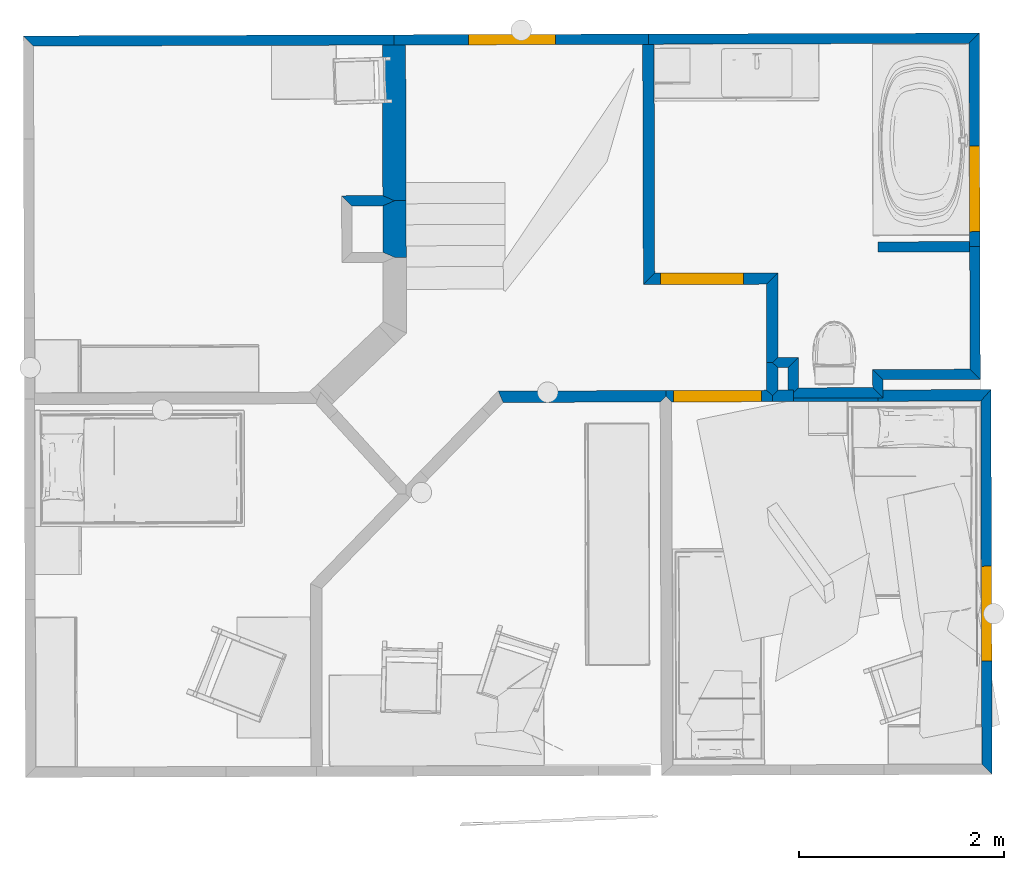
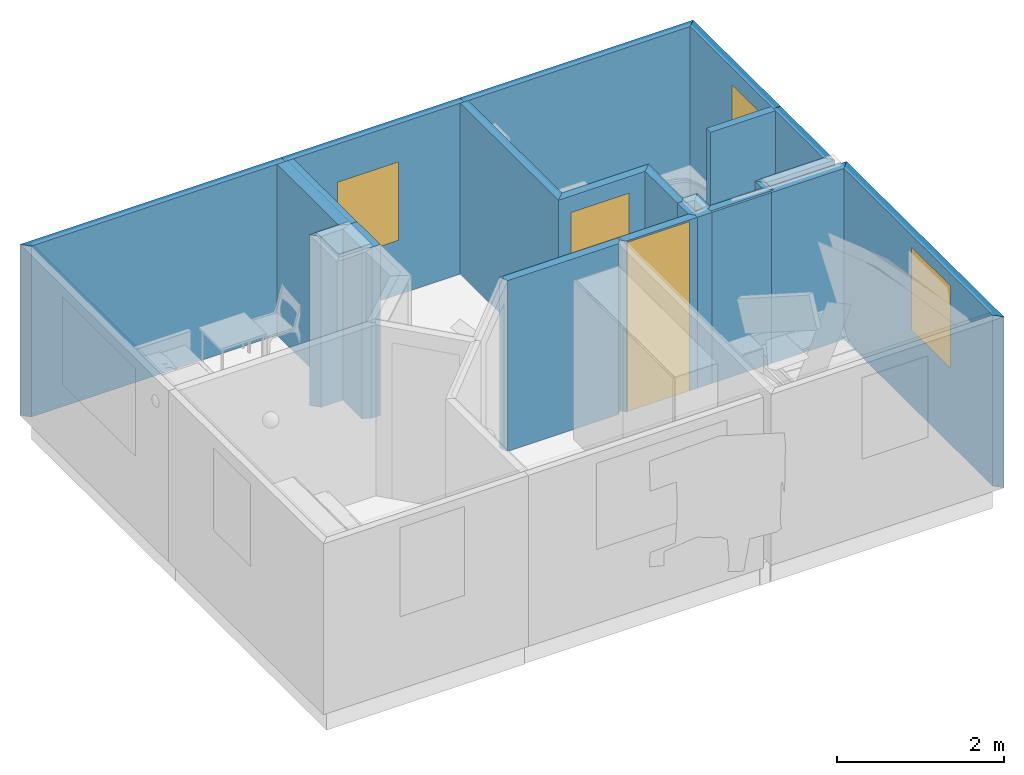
# One storey, part 2 of 15: 24 walls, 3 windows, 2 doors, 5 openings.
"""IFC4 building model written with IfcOpenShell, lengths in metres."""

from ifc_helpers import new_model, si_unit, direction, frame, origin_with_axes, place, context, subcontext, project, spatial, polyline, outline, extrude, type_object, element, fill, save


model = new_model("IFC4")

# Units and contexts
model_context = context("Model", 3, precision=1e-05, world=origin_with_axes(), true_north=direction((-0.077, 0.997, 0.0)))
body_context = subcontext(model_context, "Body", "Model", "MODEL_VIEW")
ifc_project = project(units=[si_unit("AREAUNIT", "SQUARE_METRE"), si_unit("LENGTHUNIT", "METRE")], contexts=[model_context])

# Site, building, storey
site_placement = place(None, origin_with_axes())
site = spatial("IfcSite", under=ifc_project, at=site_placement, Name="Site", CompositionType="ELEMENT")
building_placement = place(site_placement, origin_with_axes())
building = spatial("IfcBuilding", under=site, at=building_placement, Name="Building", CompositionType="ELEMENT")
storey_placement = place(building_placement, frame((0.0, 0.0, 5.71135139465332), z_axis=(0.0, 0.0, 1.0), x_axis=(1.0, 0.0, 0.0)))
storey = spatial("IfcBuildingStorey", under=building, at=storey_placement, Name="Story 2", CompositionType="ELEMENT", Elevation=5.71135139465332)

# Walls
wall_type_1 = type_object("IfcWallType", Name="Metaroom Wall", PredefinedType="STANDARD")
wall_1_placement = place(storey_placement, frame((5.08520696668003, -0.494745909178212, 0.0), z_axis=(0.0, 0.0, 1.0), x_axis=(1.0, 0.0, 0.0)))
element("IfcWallStandardCase", 1, at=wall_1_placement, inside=storey, type_object=wall_type_1, Name="Wall", context=body_context, shape_type="SweptSolid", body=[
    extrude(outline(polyline([(0.0, 0.0), (0.11123156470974, 0.111898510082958), (0.113702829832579, -0.714610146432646), (0.0580697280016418, -0.76477664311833), (0.00228722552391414, -0.764943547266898), (0.0, 0.0)])), origin_with_axes(), (0.0, 0.0, 1.0), 2.50098705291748),
])
wall_type_2 = type_object("IfcWallType", Name="Metaroom Wall", PredefinedType="STANDARD")
wall_2_placement = place(storey_placement, frame((7.06889251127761, -0.178746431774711, 0.0), z_axis=(0.0, 0.0, 1.0), x_axis=(1.0, 0.0, 0.0)))
element("IfcWallStandardCase", 2, at=wall_2_placement, inside=storey, type_object=wall_type_2, Name="Wall", context=body_context, shape_type="SweptSolid", body=[
    extrude(outline(polyline([(0.0, 0.0), (-0.00014924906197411, 0.0499997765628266), (0.0998502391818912, 0.0502989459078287), (0.103722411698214, -1.24490464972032), (0.00342390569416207, -1.14520414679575), (0.0, 0.0)])), origin_with_axes(), (0.0, 0.0, 1.0), 2.50098705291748),
])
wall_type_3 = type_object("IfcWallType", Name="Metaroom Wall", PredefinedType="STANDARD")
wall_3_placement = place(storey_placement, frame((6.22269984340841, -1.42649087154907, 0.0), z_axis=(0.0, 0.0, 1.0), x_axis=(1.0, 0.0, 0.0)))
element("IfcWallStandardCase", 3, at=wall_3_placement, inside=storey, type_object=wall_type_3, Name="Wall", context=body_context, shape_type="SweptSolid", body=[
    extrude(outline(polyline([(0.0, 0.0), (-0.100298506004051, 0.0997005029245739), (0.849616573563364, 0.102540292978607), (0.949915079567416, 0.00283979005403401), (0.0, 0.0)])), origin_with_axes(), (0.0, 0.0, 1.0), 2.50098705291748),
])
wall_type_4 = type_object("IfcWallType", Name="Metaroom Wall", PredefinedType="STANDARD")
wall_4_placement = place(storey_placement, frame((3.98893719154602, 1.84676414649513, 0.0), z_axis=(0.0, 0.0, 1.0), x_axis=(1.0, 0.0, 0.0)))
element("IfcWallStandardCase", 4, at=wall_4_placement, inside=storey, type_object=wall_type_4, Name="Wall", context=body_context, shape_type="SweptSolid", body=[
    extrude(outline(polyline([(0.0, 0.0), (-0.0557825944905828, -0.000166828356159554), (-0.056081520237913, 0.0998327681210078), (3.1735722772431, 0.109489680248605), (3.07387165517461, 0.00919065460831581), (0.0, 0.0)])), origin_with_axes(), (0.0, 0.0, 1.0), 2.50098705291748),
])
wall_type_5 = type_object("IfcWallType", Name="Metaroom Wall", PredefinedType="STANDARD")
wall_5_placement = place(storey_placement, frame((5.29833090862, -1.60608810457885, 0.0), z_axis=(0.0, 0.0, 1.0), x_axis=(1.0, 0.0, 0.0)))
element("IfcWallStandardCase", 5, at=wall_5_placement, inside=storey, type_object=wall_type_5, Name="Wall", context=body_context, shape_type="SweptSolid", body=[
    extrude(outline(polyline([(0.0, 0.0), (0.0997003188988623, 0.100298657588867), (0.824599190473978, 0.102466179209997), (0.92489806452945, 0.00276537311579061), (0.0, 0.0)])), origin_with_axes(), (0.0, 0.0, 1.0), 2.50098705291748),
])
wall_type_6 = type_object("IfcWallType", Name="Metaroom Wall", PredefinedType="STANDARD")
wall_6_placement = place(storey_placement, frame((3.87737209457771, 1.84643041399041, 0.0), z_axis=(0.0, 0.0, 1.0), x_axis=(1.0, 0.0, 0.0)))
element("IfcWallStandardCase", 6, at=wall_6_placement, inside=storey, type_object=wall_type_6, Name="Wall", context=body_context, shape_type="SweptSolid", body=[
    extrude(outline(polyline([(0.0, 0.0), (0.0557825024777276, 0.000166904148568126), (0.11156509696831, 0.00033373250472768), (0.118241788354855, -2.23286769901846), (0.00701040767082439, -2.34476636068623), (0.0, 0.0)])), origin_with_axes(), (0.0, 0.0, 1.0), 2.50098705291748),
])

# Wall, opening, window
wall_type_7 = type_object("IfcWallType", Name="Metaroom Wall", PredefinedType="STANDARD")
wall_7_placement = place(storey_placement, frame((7.06280884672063, 1.85595480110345, 0.0), z_axis=(0.0, 0.0, 1.0), x_axis=(1.0, 0.0, 0.0)))
wall_7 = element("IfcWallStandardCase", 7, at=wall_7_placement, inside=storey, type_object=wall_type_7, Name="Wall", context=body_context, shape_type="SweptSolid", body=[
    extrude(outline(polyline([(0.0, 0.0), (0.0997006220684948, 0.100299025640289), (0.105933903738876, -1.98440228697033), (0.00593441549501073, -1.98470145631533), (0.00578479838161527, -1.93470137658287), (0.0, 0.0)])), origin_with_axes(), (0.0, 0.0, 1.0), 2.50098705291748),
])
opening_1_placement = place(wall_7_placement, frame((0.00299823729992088, -1.00273230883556, 1.07699733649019), z_axis=(0.0, 0.0, 1.0), x_axis=(0.00298997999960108, -0.999995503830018, 0.0)))
opening_1 = element("IfcOpeningElement", 8, at=opening_1_placement, cuts=wall_7, Name="Metaroom Opening", ObjectType="OPENING", context=body_context, shape_type="SweptSolid", body=[
    extrude(outline(polyline([(1.73472347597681e-17, 0.0), (0.835933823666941, 0.0), (0.835933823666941, 1.17513758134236), (1.73472347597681e-17, 1.17513758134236), (1.73472347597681e-17, 0.0)])), frame((0.0, 0.0, 0.0), z_axis=(0.0, -1.0, 0.0), x_axis=(1.0, 0.0, 0.0)), (0.0, 0.0, -1.0), 0.100100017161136),
])
window_type_1 = type_object("IfcWindowType", Name="Metaroom Window area", PredefinedType="WINDOW")
window_1_placement = place(opening_1_placement, origin_with_axes())
window_1 = element("IfcWindow", 9, at=window_1_placement, inside=storey, type_object=window_type_1, Name="Metaroom Window area", OverallHeight=1.5, OverallWidth=0.5, context=body_context, shape_type="SweptSolid", body=[
    extrude(outline(polyline([(3.46944695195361e-18, 0.0), (-0.835933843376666, 0.0), (-0.835933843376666, 1.17513751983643), (3.46944695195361e-18, 1.17513751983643), (3.46944695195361e-18, 0.0)])), frame((0.0, 0.100000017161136, 0.0), z_axis=(0.0, 1.0, 0.0), x_axis=(-1.0, 0.0, 0.0)), (0.0, 0.0, -1.0), 0.100000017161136),
])
fill(opening_1, window_1)

# Wall, opening, door
wall_type_8 = type_object("IfcWallType", Name="Metaroom Wall", PredefinedType="STANDARD")
wall_8_placement = place(storey_placement, frame((3.88438250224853, -0.498335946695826, 0.0), z_axis=(0.0, 0.0, 1.0), x_axis=(1.0, 0.0, 0.0)))
wall_8 = element("IfcWallStandardCase", 10, at=wall_8_placement, inside=storey, type_object=wall_type_8, Name="Wall", context=body_context, shape_type="SweptSolid", body=[
    extrude(outline(polyline([(0.0, 0.0), (0.11123138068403, 0.111898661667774), (1.31205602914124, 0.115488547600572), (1.2008244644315, 0.00359003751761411), (0.0, 0.0)])), origin_with_axes(), (0.0, 0.0, 1.0), 2.50098705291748),
])
opening_2_placement = place(wall_8_placement, frame((0.978029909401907, 0.114490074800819, 0.0), z_axis=(0.0, 0.0, 1.0), x_axis=(-0.999995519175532, -0.00298968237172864, 0.0)))
opening_2 = element("IfcOpeningElement", 11, at=opening_2_placement, cuts=wall_8, Name="Metaroom Opening", ObjectType="OPENING", context=body_context, shape_type="SweptSolid", body=[
    extrude(outline(polyline([(-8.88178419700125e-16, 0.0), (0.809477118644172, 0.0), (0.809477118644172, 2.25869041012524), (-8.88178419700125e-16, 2.25869041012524), (-8.88178419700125e-16, 0.0)])), frame((0.0, 0.0, 0.0), z_axis=(0.0, -1.0, 0.0), x_axis=(1.0, 0.0, 0.0)), (0.0, 0.0, -1.0), 0.111665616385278),
])
door_type_1 = type_object("IfcDoorType", Name="Metaroom Door area", PredefinedType="DOOR")
door_1_placement = place(opening_2_placement, origin_with_axes())
door_1 = element("IfcDoor", 12, at=door_1_placement, inside=storey, type_object=door_type_1, Name="Metaroom Door area", OverallHeight=2.25869035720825, OverallWidth=0.809477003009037, context=body_context, shape_type="SweptSolid", body=[
    extrude(outline(polyline([(8.88178419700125e-16, 0.0), (-0.80947718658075, 0.0), (-0.80947718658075, 2.25869035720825), (8.88178419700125e-16, 2.25869035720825), (8.88178419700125e-16, 0.0)])), frame((0.0, 0.111565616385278, 0.0), z_axis=(0.0, 1.0, 0.0), x_axis=(-1.0, 0.0, 0.0)), (0.0, 0.0, -1.0), 0.111565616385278),
])
fill(opening_2, door_1)

# Walls
wall_type_9 = type_object("IfcWallType", Name="Metaroom Wall", PredefinedType="STANDARD")
wall_9_placement = place(storey_placement, frame((5.19920844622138, -1.3093554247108, 0.0), z_axis=(0.0, 0.0, 1.0), x_axis=(1.0, 0.0, 0.0)))
element("IfcWallStandardCase", 13, at=wall_9_placement, inside=storey, type_object=wall_type_9, Name="Wall", context=body_context, shape_type="SweptSolid", body=[
    extrude(outline(polyline([(0.0, 0.0), (-0.0559317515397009, 0.0498328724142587), (-0.000298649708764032, 0.0999993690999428), (0.197934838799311, 0.100591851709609), (0.0982341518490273, 0.0002934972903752), (0.0, 0.0)])), origin_with_axes(), (0.0, 0.0, 1.0), 2.50098705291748),
])
wall_type_10 = type_object("IfcWallType", Name="Metaroom Wall", PredefinedType="STANDARD")
wall_10_placement = place(storey_placement, frame((5.2974425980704, -1.30906192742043, 0.0), z_axis=(0.0, 0.0, 1.0), x_axis=(1.0, 0.0, 0.0)))
element("IfcWallStandardCase", 14, at=wall_10_placement, inside=storey, type_object=wall_type_10, Name="Wall", context=body_context, shape_type="SweptSolid", body=[
    extrude(outline(polyline([(0.0, 0.0), (0.0997006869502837, 0.100298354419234), (0.100588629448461, -0.196727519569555), (0.000888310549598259, -0.297026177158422), (0.0, 0.0)])), origin_with_axes(), (0.0, 0.0, 1.0), 2.50098705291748),
])
wall_type_11 = type_object("IfcWallType", Name="Metaroom Wall", PredefinedType="STANDARD")
wall_11_placement = place(storey_placement, frame((6.12293009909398, -1.50362192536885, 0.0), z_axis=(0.0, 0.0, 1.0), x_axis=(1.0, 0.0, 0.0)))
element("IfcWallStandardCase", 15, at=wall_11_placement, inside=storey, type_object=wall_type_11, Name="Wall", context=body_context, shape_type="SweptSolid", body=[
    extrude(outline(polyline([(0.0, 0.0), (-0.000528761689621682, 0.176831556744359), (0.099769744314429, 0.0771310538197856), (0.100298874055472, -0.0997008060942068), (0.0, 0.0)])), origin_with_axes(), (0.0, 0.0, 1.0), 2.50098705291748),
])
wall_type_12 = type_object("IfcWallType", Name="Metaroom Wall", PredefinedType="STANDARD")
wall_12_placement = place(storey_placement, frame((6.17237894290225, -0.181426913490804, 0.0), z_axis=(0.0, 0.0, 1.0), x_axis=(1.0, 0.0, 0.0)))
element("IfcWallStandardCase", 16, at=wall_12_placement, inside=storey, type_object=wall_type_12, Name="Wall", context=body_context, shape_type="SweptSolid", body=[
    extrude(outline(polyline([(0.0, 0.0), (-0.00029916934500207, 0.0999994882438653), (0.896214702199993, 0.102680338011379), (0.896364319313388, 0.0526802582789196), (0.896513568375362, 0.00268048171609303), (0.0, 0.0)])), origin_with_axes(), (0.0, 0.0, 1.0), 2.50098705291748),
])
wall_type_13 = type_object("IfcWallType", Name="Metaroom Wall", PredefinedType="STANDARD")
wall_13_placement = place(storey_placement, frame((1.33712498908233, 1.83883578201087, 0.0), z_axis=(0.0, 0.0, 1.0), x_axis=(1.0, 0.0, 0.0)))
element("IfcWallStandardCase", 17, at=wall_13_placement, inside=storey, type_object=wall_type_13, Name="Wall", context=body_context, shape_type="SweptSolid", body=[
    extrude(outline(polyline([(0.0, 0.0), (0.113796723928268, 0.0003401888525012), (0.227593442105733, 0.000680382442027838), (0.232135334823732, -1.51843489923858), (0.118338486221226, -1.51877513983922), (0.00439229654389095, -1.46911552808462), (0.0, 0.0)])), origin_with_axes(), (0.0, 0.0, 1.0), 2.50098705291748),
])
wall_type_14 = type_object("IfcWallType", Name="Metaroom Wall", PredefinedType="STANDARD")
wall_14_placement = place(storey_placement, frame((1.04051393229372, 0.268819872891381, 0.0), z_axis=(0.0, 0.0, 1.0), x_axis=(1.0, 0.0, 0.0)))
element("IfcWallStandardCase", 18, at=wall_14_placement, inside=storey, type_object=wall_type_14, Name="Wall", context=body_context, shape_type="SweptSolid", body=[
    extrude(outline(polyline([(0.0, 0.0), (-0.100298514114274, 0.0997005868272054), (0.301003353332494, 0.10090038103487), (0.414949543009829, 0.0512407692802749), (0.301302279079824, 0.000900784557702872), (0.0, 0.0)])), origin_with_axes(), (0.0, 0.0, 1.0), 2.50098705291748),
])
wall_type_15 = type_object("IfcWallType", Name="Metaroom Wall", PredefinedType="STANDARD")
wall_15_placement = place(storey_placement, frame((-2.06671751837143, 1.82865957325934, 0.0), z_axis=(0.0, 0.0, 1.0), x_axis=(1.0, 0.0, 0.0)))
element("IfcWallStandardCase", 19, at=wall_15_placement, inside=storey, type_object=wall_type_15, Name="Wall", context=body_context, shape_type="SweptSolid", body=[
    extrude(outline(polyline([(0.0, 0.0), (-0.100298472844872, 0.0997005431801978), (3.51734029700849, 0.110516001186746), (3.51763923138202, 0.0105163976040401), (3.40384250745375, 0.0101762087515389), (0.0, 0.0)])), origin_with_axes(), (0.0, 0.0, 1.0), 2.50098705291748),
])
wall_type_16 = type_object("IfcWallType", Name="Metaroom Wall", PredefinedType="STANDARD")
wall_16_placement = place(storey_placement, frame((2.51550682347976, -1.64852700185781, 0.0), z_axis=(0.0, 0.0, 1.0), x_axis=(1.0, 0.0, 0.0)))
element("IfcWallStandardCase", 20, at=wall_16_placement, inside=storey, type_object=wall_type_16, Name="Wall", context=body_context, shape_type="SweptSolid", body=[
    extrude(outline(polyline([(0.0, 0.0), (-0.0471887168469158, 0.111424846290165), (1.58868368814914, 0.116315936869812), (1.5888505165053, 0.0605333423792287), (1.53323455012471, 0.00458423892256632), (0.0, 0.0)])), origin_with_axes(), (0.0, 0.0, 1.0), 2.50098705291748),
])
wall_type_17 = type_object("IfcWallType", Name="Metaroom Wall", PredefinedType="STANDARD")
wall_17_placement = place(storey_placement, frame((5.34843289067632, -1.64005699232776, 0.0), z_axis=(0.0, 0.0, 1.0), x_axis=(1.0, 0.0, 0.0)))
element("IfcWallStandardCase", 21, at=wall_17_placement, inside=storey, type_object=wall_type_17, Name="Wall", context=body_context, shape_type="SweptSolid", body=[
    extrude(outline(polyline([(0.0, 0.0), (-0.000333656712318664, 0.111565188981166), (0.82456476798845, 0.114031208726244), (0.824898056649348, 0.00246632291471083), (0.0, 0.0)])), origin_with_axes(), (0.0, 0.0, 1.0), 2.50098705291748),
])
wall_type_18 = type_object("IfcWallType", Name="Metaroom Wall", PredefinedType="STANDARD")
wall_18_placement = place(storey_placement, frame((5.1444161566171, -1.6406670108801, 0.0), z_axis=(0.0, 0.0, 1.0), x_axis=(1.0, 0.0, 0.0)))
element("IfcWallStandardCase", 22, at=wall_18_placement, inside=storey, type_object=wall_type_18, Name="Wall", context=body_context, shape_type="SweptSolid", body=[
    extrude(outline(polyline([(0.0, 0.0), (-0.00016690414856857, 0.0557825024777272), (0.0554486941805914, 0.111731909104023), (0.203683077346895, 0.112175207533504), (0.204016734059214, 0.00061001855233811), (0.0, 0.0)])), origin_with_axes(), (0.0, 0.0, 1.0), 2.50098705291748),
])

# Wall, opening, window
wall_type_19 = type_object("IfcWallType", Name="Metaroom Wall", PredefinedType="STANDARD")
wall_19_placement = place(storey_placement, frame((7.17702575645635, -1.63458990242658, 0.0), z_axis=(0.0, 0.0, 1.0), x_axis=(1.0, 0.0, 0.0)))
wall_19 = element("IfcWallStandardCase", 23, at=wall_19_placement, inside=storey, type_object=wall_type_19, Name="Wall", context=body_context, shape_type="SweptSolid", body=[
    extrude(outline(polyline([(0.0, 0.0), (0.0996656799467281, 0.111864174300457), (0.110895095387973, -3.64413483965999), (0.0105966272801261, -3.54443429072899), (0.0, 0.0)])), origin_with_axes(), (0.0, 0.0, 1.0), 2.50098705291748),
])
opening_3_placement = place(wall_19_placement, frame((0.00482012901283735, -1.61231758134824, 1.11837674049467), z_axis=(0.0, 0.0, 1.0), x_axis=(0.00298976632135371, -0.999995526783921, 0.0)))
opening_3 = element("IfcOpeningElement", 24, at=opening_3_placement, cuts=wall_19, Name="Metaroom Opening", ObjectType="OPENING", context=body_context, shape_type="SweptSolid", body=[
    extrude(outline(polyline([(1.35308431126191e-16, 0.0), (0.926479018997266, 0.0), (0.926479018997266, 1.20518399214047), (1.35308431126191e-16, 1.20518399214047), (1.35308431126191e-16, 0.0)])), frame((0.0, 0.0, 0.0), z_axis=(0.0, -1.0, 0.0), x_axis=(1.0, 0.0, 0.0)), (0.0, 0.0, -1.0), 0.100099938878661),
])
window_type_2 = type_object("IfcWindowType", Name="Metaroom Window area", PredefinedType="WINDOW")
window_2_placement = place(opening_3_placement, origin_with_axes())
window_2 = element("IfcWindow", 25, at=window_2_placement, inside=storey, type_object=window_type_2, Name="Metaroom Window area", OverallHeight=1.5, OverallWidth=0.5, context=body_context, shape_type="SweptSolid", body=[
    extrude(outline(polyline([(1.80411241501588e-16, 0.0), (-0.92647906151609, 0.0), (-0.92647906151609, 1.20518398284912), (1.80411241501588e-16, 1.20518398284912), (1.80411241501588e-16, 0.0)])), frame((0.0, 0.0999999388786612, 0.0), z_axis=(0.0, 1.0, 0.0), x_axis=(-1.0, 0.0, 0.0)), (0.0, 0.0, -1.0), 0.0999999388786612),
])
fill(opening_3, window_2)

# Wall
wall_type_20 = type_object("IfcWallType", Name="Metaroom Wall", PredefinedType="STANDARD")
wall_20_placement = place(storey_placement, frame((6.17333094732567, -1.63759066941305, 0.0), z_axis=(0.0, 0.0, 1.0), x_axis=(1.0, 0.0, 0.0)))
element("IfcWallStandardCase", 26, at=wall_20_placement, inside=storey, type_object=wall_type_20, Name="Wall", context=body_context, shape_type="SweptSolid", body=[
    extrude(outline(polyline([(0.0, 0.0), (-0.000333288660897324, 0.111564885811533), (1.10336048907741, 0.114864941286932), (1.00369480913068, 0.00300076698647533), (0.0, 0.0)])), origin_with_axes(), (0.0, 0.0, 1.0), 2.50098705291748),
])

# Wall, opening, door
wall_type_21 = type_object("IfcWallType", Name="Metaroom Wall", PredefinedType="STANDARD")
wall_21_placement = place(storey_placement, frame((4.16030659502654, -1.64360944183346, 0.0), z_axis=(0.0, 0.0, 1.0), x_axis=(1.0, 0.0, 0.0)))
wall_21 = element("IfcWallStandardCase", 27, at=wall_21_placement, inside=storey, type_object=wall_type_21, Name="Wall", context=body_context, shape_type="SweptSolid", body=[
    extrude(outline(polyline([(0.0, 0.0), (-0.0559492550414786, 0.0556157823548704), (-0.0561160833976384, 0.111398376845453), (0.92799340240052, 0.114340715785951), (0.983942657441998, 0.0587249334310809), (0.984109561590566, 0.00294243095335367), (0.0, 0.0)])), origin_with_axes(), (0.0, 0.0, 1.0), 2.50098705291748),
])
opening_4_placement = place(wall_21_placement, frame((0.019228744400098, 5.75820263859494e-05, 0.0), z_axis=(0.0, 0.0, 1.0), x_axis=(0.999995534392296, 0.00298985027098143, 0.0)))
opening_4 = element("IfcOpeningElement", 28, at=opening_4_placement, cuts=wall_21, Name="Metaroom Opening", ObjectType="OPENING", context=body_context, shape_type="SweptSolid", body=[
    extrude(outline(polyline([(0.0, 0.0), (0.857411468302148, 0.0), (0.857411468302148, 2.47688339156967), (0.0, 2.47688339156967), (0.0, 0.0)])), frame((0.0, 0.0, 0.0), z_axis=(0.0, -1.0, 0.0), x_axis=(1.0, 0.0, 0.0)), (0.0, 0.0, -1.0), 0.111665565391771),
])
door_type_2 = type_object("IfcDoorType", Name="Metaroom Door area", PredefinedType="DOOR")
door_2_placement = place(opening_4_placement, origin_with_axes())
door_2 = element("IfcDoor", 29, at=door_2_placement, inside=storey, type_object=door_type_2, Name="Metaroom Door area", OverallHeight=2.47688293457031, OverallWidth=0.857411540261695, context=body_context, shape_type="SweptSolid", body=[
    extrude(outline(polyline([(0.0, 0.0), (-0.857411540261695, 0.0), (-0.857411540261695, 2.47688341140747), (0.0, 2.47688341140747), (0.0, 0.0)])), frame((0.0, 0.111565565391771, 0.0), z_axis=(0.0, 1.0, 0.0), x_axis=(-1.0, 0.0, 0.0)), (0.0, 0.0, -1.0), 0.111565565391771),
])
fill(opening_4, door_2)

# Walls
wall_type_22 = type_object("IfcWallType", Name="Metaroom Wall", PredefinedType="STANDARD")
wall_22_placement = place(storey_placement, frame((5.08749419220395, -1.25968945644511, 0.0), z_axis=(0.0, 0.0, 1.0), x_axis=(1.0, 0.0, 0.0)))
element("IfcWallStandardCase", 30, at=wall_22_placement, inside=storey, type_object=wall_type_22, Name="Wall", context=body_context, shape_type="SweptSolid", body=[
    extrude(outline(polyline([(0.0, 0.0), (0.0557825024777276, 0.000166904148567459), (0.111714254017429, -0.0496659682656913), (0.112370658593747, -0.26924564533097), (0.056755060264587, -0.325195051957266), (0.000805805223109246, -0.269579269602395), (0.0, 0.0)])), origin_with_axes(), (0.0, 0.0, 1.0), 2.50098705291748),
])
wall_type_23 = type_object("IfcWallType", Name="Metaroom Wall", PredefinedType="STANDARD")
wall_23_placement = place(storey_placement, frame((1.34181621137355, 0.269720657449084, 0.0), z_axis=(0.0, 0.0, 1.0), x_axis=(1.0, 0.0, 0.0)))
element("IfcWallStandardCase", 31, at=wall_23_placement, inside=storey, type_object=wall_type_23, Name="Wall", context=body_context, shape_type="SweptSolid", body=[
    extrude(outline(polyline([(0.0, 0.0), (0.113647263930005, 0.0503399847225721), (0.227444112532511, 0.0506802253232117), (0.229095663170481, -0.501736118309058), (0.115298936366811, -0.502076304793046), (0.00135271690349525, -0.452416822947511), (0.0, 0.0)])), origin_with_axes(), (0.0, 0.0, 1.0), 2.50098705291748),
])

# Wall, opening, window
wall_type_24 = type_object("IfcWallType", Name="Metaroom Wall", PredefinedType="STANDARD")
wall_24_placement = place(storey_placement, frame((1.56471843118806, 1.8395161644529, 0.0), z_axis=(0.0, 0.0, 1.0), x_axis=(1.0, 0.0, 0.0)))
wall_24 = element("IfcWallStandardCase", 32, at=wall_24_placement, inside=storey, type_object=wall_type_24, Name="Wall", context=body_context, shape_type="SweptSolid", body=[
    extrude(outline(polyline([(0.0, 0.0), (-0.113796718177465, -0.000340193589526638), (-0.114095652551, 0.0996594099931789), (2.36813724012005, 0.10708075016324), (2.36843616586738, 0.00708115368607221), (2.31265366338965, 0.00691424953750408), (0.0, 0.0)])), origin_with_axes(), (0.0, 0.0, 1.0), 2.50098705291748),
])
opening_5_placement = place(wall_24_placement, frame((0.612394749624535, 0.0018308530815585, 0.797311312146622), z_axis=(0.0, 0.0, 1.0), x_axis=(0.999995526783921, 0.00298976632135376, 0.0)))
opening_5 = element("IfcOpeningElement", 33, at=opening_5_placement, cuts=wall_24, Name="Metaroom Opening", ObjectType="OPENING", context=body_context, shape_type="SweptSolid", body=[
    extrude(outline(polyline([(-4.44089209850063e-16, 0.0), (0.847894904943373, 0.0), (0.847894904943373, 1.14437819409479), (-4.44089209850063e-16, 1.14437819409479), (-4.44089209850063e-16, 0.0)])), frame((0.0, 0.0, 0.0), z_axis=(0.0, -1.0, 0.0), x_axis=(1.0, 0.0, 0.0)), (0.0, 0.0, -1.0), 0.10010015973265),
])
window_type_3 = type_object("IfcWindowType", Name="Metaroom Window area", PredefinedType="WINDOW")
window_3_placement = place(opening_5_placement, origin_with_axes())
window_3 = element("IfcWindow", 34, at=window_3_placement, inside=storey, type_object=window_type_3, Name="Metaroom Window area", OverallHeight=1.5, OverallWidth=0.5, context=body_context, shape_type="SweptSolid", body=[
    extrude(outline(polyline([(-4.44089209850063e-16, 0.0), (-0.847894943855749, 0.0), (-0.847894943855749, 1.14437818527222), (-4.44089209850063e-16, 1.14437818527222), (-4.44089209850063e-16, 0.0)])), frame((0.0, 0.10000015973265, 0.0), z_axis=(0.0, 1.0, 0.0), x_axis=(-1.0, 0.0, 0.0)), (0.0, 0.0, -1.0), 0.10000015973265),
])
fill(opening_5, window_3)

save(model, "model.ifc")
